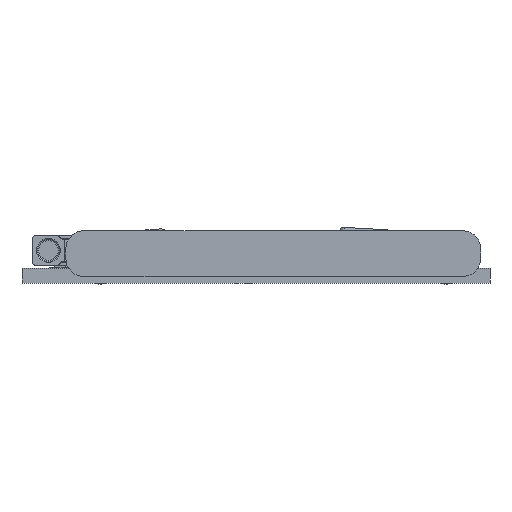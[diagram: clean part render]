
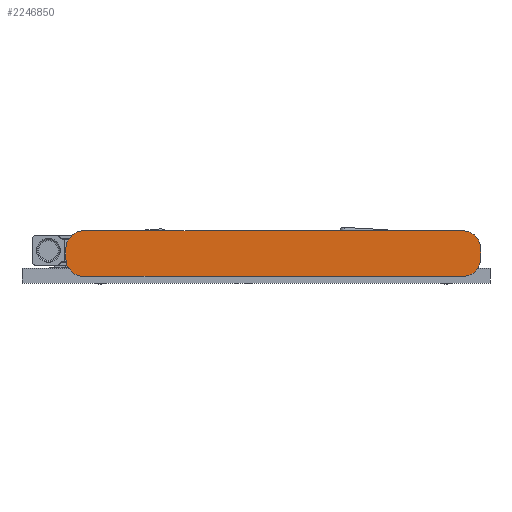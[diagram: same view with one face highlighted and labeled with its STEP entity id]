
A CAD part, front view. The second image highlights one B-rep face of the part: STEP entity #2246850.
In plain terms, the highlighted planar face has unit normal (0, -1, 0) as drawn and (0, 0, 1) by its records, which use the part's own axes.
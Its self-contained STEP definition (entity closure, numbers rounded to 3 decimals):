
#2237290=CARTESIAN_POINT('',(13.27,0.,0.4));
#2237300=DIRECTION('',(0.,1.,-0.));
#2237310=VECTOR('',#2237300,1.);
#2237320=LINE('',#2237290,#2237310);
#2237330=CARTESIAN_POINT('',(13.27,20.705,0.4));
#2237340=VERTEX_POINT('',#2237330);
#2237350=CARTESIAN_POINT('',(13.27,21.1,0.4));
#2237360=VERTEX_POINT('',#2237350);
#2237370=EDGE_CURVE('',#2237340,#2237360,#2237320,.T.);
#2237670=CARTESIAN_POINT('',(14.,20.705,0.4));
#2237680=DIRECTION('',(0.,0.,-1.));
#2237690=DIRECTION('',(-1.,0.,0.));
#2237700=AXIS2_PLACEMENT_3D('',#2237670,#2237680,#2237690);
#2237710=CIRCLE('',#2237700,0.73);
#2237720=CARTESIAN_POINT('',(14.,19.975,0.4));
#2237730=VERTEX_POINT('',#2237720);
#2237740=EDGE_CURVE('',#2237730,#2237340,#2237710,.T.);
#2237990=CARTESIAN_POINT('',(0.,19.975,0.4));
#2238000=DIRECTION('',(-1.,0.,0.));
#2238010=VECTOR('',#2238000,1.);
#2238020=LINE('',#2237990,#2238010);
#2238030=CARTESIAN_POINT('',(29.34,19.975,0.4));
#2238040=VERTEX_POINT('',#2238030);
#2238050=EDGE_CURVE('',#2238040,#2237730,#2238020,.T.);
#2238300=CARTESIAN_POINT('',(29.34,20.705,0.4));
#2238310=DIRECTION('',(0.,0.,-1.));
#2238320=DIRECTION('',(-1.,0.,0.));
#2238330=AXIS2_PLACEMENT_3D('',#2238300,#2238310,#2238320);
#2238340=CIRCLE('',#2238330,0.73);
#2238350=CARTESIAN_POINT('',(30.07,20.705,0.4));
#2238360=VERTEX_POINT('',#2238350);
#2238370=EDGE_CURVE('',#2238360,#2238040,#2238340,.T.);
#2238620=CARTESIAN_POINT('',(30.07,0.,0.4));
#2238630=DIRECTION('',(0.,-1.,0.));
#2238640=VECTOR('',#2238630,1.);
#2238650=LINE('',#2238620,#2238640);
#2238660=CARTESIAN_POINT('',(30.07,21.095,0.4));
#2238670=VERTEX_POINT('',#2238660);
#2238680=EDGE_CURVE('',#2238670,#2238360,#2238650,.T.);
#2238930=CARTESIAN_POINT('',(29.34,21.095,0.4));
#2238940=DIRECTION('',(0.,0.,-1.));
#2238950=DIRECTION('',(-1.,0.,0.));
#2238960=AXIS2_PLACEMENT_3D('',#2238930,#2238940,#2238950);
#2238970=CIRCLE('',#2238960,0.73);
#2238980=CARTESIAN_POINT('',(29.34,21.825,0.4));
#2238990=VERTEX_POINT('',#2238980);
#2239000=EDGE_CURVE('',#2238990,#2238670,#2238970,.T.);
#2239250=CARTESIAN_POINT('',(0.,21.825,0.4));
#2239260=DIRECTION('',(1.,0.,-0.));
#2239270=VECTOR('',#2239260,1.);
#2239280=LINE('',#2239250,#2239270);
#2239290=CARTESIAN_POINT('',(13.995,21.825,0.4));
#2239300=VERTEX_POINT('',#2239290);
#2239310=EDGE_CURVE('',#2239300,#2238990,#2239280,.T.);
#2239560=CARTESIAN_POINT('',(13.995,21.1,0.4));
#2239570=DIRECTION('',(0.,0.,-1.));
#2239580=DIRECTION('',(-1.,0.,0.));
#2239590=AXIS2_PLACEMENT_3D('',#2239560,#2239570,#2239580);
#2239600=CIRCLE('',#2239590,0.725);
#2239610=EDGE_CURVE('',#2237360,#2239300,#2239600,.T.);
#2246700=CARTESIAN_POINT('',(13.27,19.975,0.4));
#2246710=DIRECTION('',(0.,0.,1.));
#2246720=DIRECTION('',(1.,0.,-0.));
#2246730=AXIS2_PLACEMENT_3D('',#2246700,#2246710,#2246720);
#2246740=PLANE('',#2246730);
#2246750=ORIENTED_EDGE('',*,*,#2239000,.F.);
#2246760=ORIENTED_EDGE('',*,*,#2238680,.F.);
#2246770=ORIENTED_EDGE('',*,*,#2238370,.F.);
#2246780=ORIENTED_EDGE('',*,*,#2238050,.F.);
#2246790=ORIENTED_EDGE('',*,*,#2237740,.F.);
#2246800=ORIENTED_EDGE('',*,*,#2237370,.F.);
#2246810=ORIENTED_EDGE('',*,*,#2239610,.F.);
#2246820=ORIENTED_EDGE('',*,*,#2239310,.F.);
#2246830=EDGE_LOOP('',(#2246820,#2246810,#2246800,#2246790,#2246780,
#2246770,#2246760,#2246750));
#2246840=FACE_OUTER_BOUND('',#2246830,.T.);
#2246850=ADVANCED_FACE('',(#2246840),#2246740,.T.);
